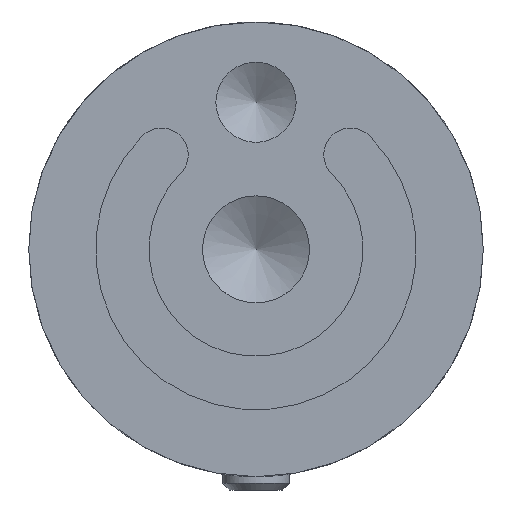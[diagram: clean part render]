
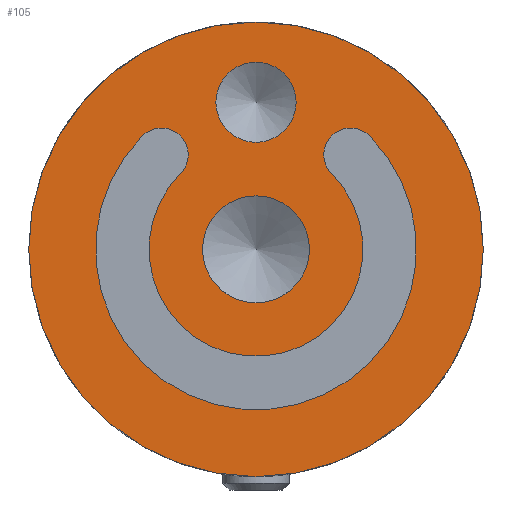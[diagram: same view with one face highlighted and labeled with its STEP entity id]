
A CAD part, front view. The second image highlights one B-rep face of the part: STEP entity #105.
In plain terms, the highlighted planar face has unit normal (0, -1, 0).
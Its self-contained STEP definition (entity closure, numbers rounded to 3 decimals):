
#105 = ADVANCED_FACE( '', ( #188, #189, #190, #191 ), #192, .F. );
#188 = FACE_BOUND( '', #289, .T. );
#189 = FACE_BOUND( '', #290, .T. );
#190 = FACE_OUTER_BOUND( '', #291, .T. );
#191 = FACE_BOUND( '', #292, .T. );
#192 = PLANE( '', #293 );
#289 = EDGE_LOOP( '', ( #545 ) );
#290 = EDGE_LOOP( '', ( #546, #547, #548, #549 ) );
#291 = EDGE_LOOP( '', ( #550 ) );
#292 = EDGE_LOOP( '', ( #551 ) );
#293 = AXIS2_PLACEMENT_3D( '', #552, #553, #554 );
#545 = ORIENTED_EDGE( '', *, *, #726, .F. );
#546 = ORIENTED_EDGE( '', *, *, #668, .T. );
#547 = ORIENTED_EDGE( '', *, *, #664, .T. );
#548 = ORIENTED_EDGE( '', *, *, #667, .F. );
#549 = ORIENTED_EDGE( '', *, *, #657, .T. );
#550 = ORIENTED_EDGE( '', *, *, #693, .T. );
#551 = ORIENTED_EDGE( '', *, *, #724, .T. );
#552 = CARTESIAN_POINT( '', ( 17., 0., 0. ) );
#553 = DIRECTION( '', ( 0., 1., 0. ) );
#554 = DIRECTION( '', ( 0., 0., 1. ) );
#657 = EDGE_CURVE( '', #766, #767, #768, .T. );
#664 = EDGE_CURVE( '', #775, #779, #781, .T. );
#667 = EDGE_CURVE( '', #766, #779, #784, .T. );
#668 = EDGE_CURVE( '', #767, #775, #785, .T. );
#693 = EDGE_CURVE( '', #828, #828, #829, .T. );
#724 = EDGE_CURVE( '', #883, #883, #884, .T. );
#726 = EDGE_CURVE( '', #885, #885, #886, .T. );
#766 = VERTEX_POINT( '', #953 );
#767 = VERTEX_POINT( '', #954 );
#768 = CIRCLE( '', #955, 2. );
#775 = VERTEX_POINT( '', #964 );
#779 = VERTEX_POINT( '', #969 );
#781 = CIRCLE( '', #972, 2. );
#784 = CIRCLE( '', #975, 8. );
#785 = CIRCLE( '', #976, 12. );
#828 = VERTEX_POINT( '', #1161 );
#829 = CIRCLE( '', #1162, 17. );
#883 = VERTEX_POINT( '', #1388 );
#884 = CIRCLE( '', #1389, 3. );
#885 = VERTEX_POINT( '', #1390 );
#886 = CIRCLE( '', #1391, 4. );
#953 = CARTESIAN_POINT( '', ( 5.657, 0., 5.657 ) );
#954 = CARTESIAN_POINT( '', ( 8.485, 0., 8.485 ) );
#955 = AXIS2_PLACEMENT_3D( '', #1448, #1449, #1450 );
#964 = CARTESIAN_POINT( '', ( -8.485, 0., 8.485 ) );
#969 = CARTESIAN_POINT( '', ( -5.657, 0., 5.657 ) );
#972 = AXIS2_PLACEMENT_3D( '', #1461, #1462, #1463 );
#975 = AXIS2_PLACEMENT_3D( '', #1470, #1471, #1472 );
#976 = AXIS2_PLACEMENT_3D( '', #1473, #1474, #1475 );
#1161 = CARTESIAN_POINT( '', ( 0., 0., -17. ) );
#1162 = AXIS2_PLACEMENT_3D( '', #1506, #1507, #1508 );
#1388 = CARTESIAN_POINT( '', ( 0., 0., 14. ) );
#1389 = AXIS2_PLACEMENT_3D( '', #1538, #1539, #1540 );
#1390 = CARTESIAN_POINT( '', ( 0., 0., -4. ) );
#1391 = AXIS2_PLACEMENT_3D( '', #1541, #1542, #1543 );
#1448 = CARTESIAN_POINT( '', ( 7.071, 0., 7.071 ) );
#1449 = DIRECTION( '', ( 0., 1., 0. ) );
#1450 = DIRECTION( '', ( 1., 0., 0. ) );
#1461 = CARTESIAN_POINT( '', ( -7.071, 0., 7.071 ) );
#1462 = DIRECTION( '', ( 0., 1., 0. ) );
#1463 = DIRECTION( '', ( 1., 0., 0. ) );
#1470 = CARTESIAN_POINT( '', ( 0., 0., 0. ) );
#1471 = DIRECTION( '', ( 0., 1., 0. ) );
#1472 = DIRECTION( '', ( 0., 0., 1. ) );
#1473 = CARTESIAN_POINT( '', ( 0., 0., 0. ) );
#1474 = DIRECTION( '', ( 0., 1., 0. ) );
#1475 = DIRECTION( '', ( 0., 0., 1. ) );
#1506 = CARTESIAN_POINT( '', ( 0., 0., 0. ) );
#1507 = DIRECTION( '', ( 0., -1., 0. ) );
#1508 = DIRECTION( '', ( 0., 0., -1. ) );
#1538 = CARTESIAN_POINT( '', ( 0., 0., 11. ) );
#1539 = DIRECTION( '', ( 0., 1., 0. ) );
#1540 = DIRECTION( '', ( 0., 0., 1. ) );
#1541 = CARTESIAN_POINT( '', ( 0., 0., 0. ) );
#1542 = DIRECTION( '', ( 0., -1., 0. ) );
#1543 = DIRECTION( '', ( 0., 0., -1. ) );
